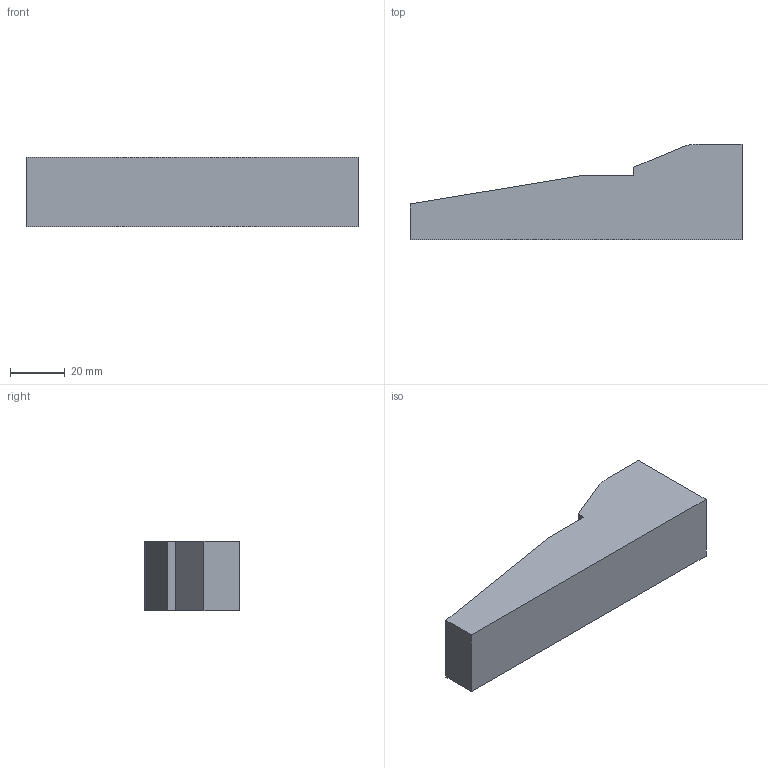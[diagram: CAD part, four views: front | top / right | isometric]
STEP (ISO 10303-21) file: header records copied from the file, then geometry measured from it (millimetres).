
FILE_DESCRIPTION (( 'STEP AP203' ), '1' );
FILE_NAME ('AB68-4FJ.STEP', '2023-08-25T14:12:13', ( '' ), ( '' ), 'SwSTEP 2.0', 'SolidWorks 2020', '' );
FILE_SCHEMA (( 'CONFIG_CONTROL_DESIGN' ));
Length unit declared in the file: inch
Products named in the file (1): AB68-4FJ
Bounding box: 121.44 x 34.92 x 25.4 mm (x, y, z)
Volume: 73467.6 mm3; surface area: 13310.7 mm2
Topology: 1 solids, 1 shells, 12 faces, 30 edges, 20 vertices
Faces by surface type: plane 10, cylinder 2
Entity records: 437 total; most frequent: CARTESIAN_POINT 63, DIRECTION 60, ORIENTED_EDGE 60, EDGE_CURVE 30, VECTOR 26, LINE 26, VERTEX_POINT 20, AXIS2_PLACEMENT_3D 17
